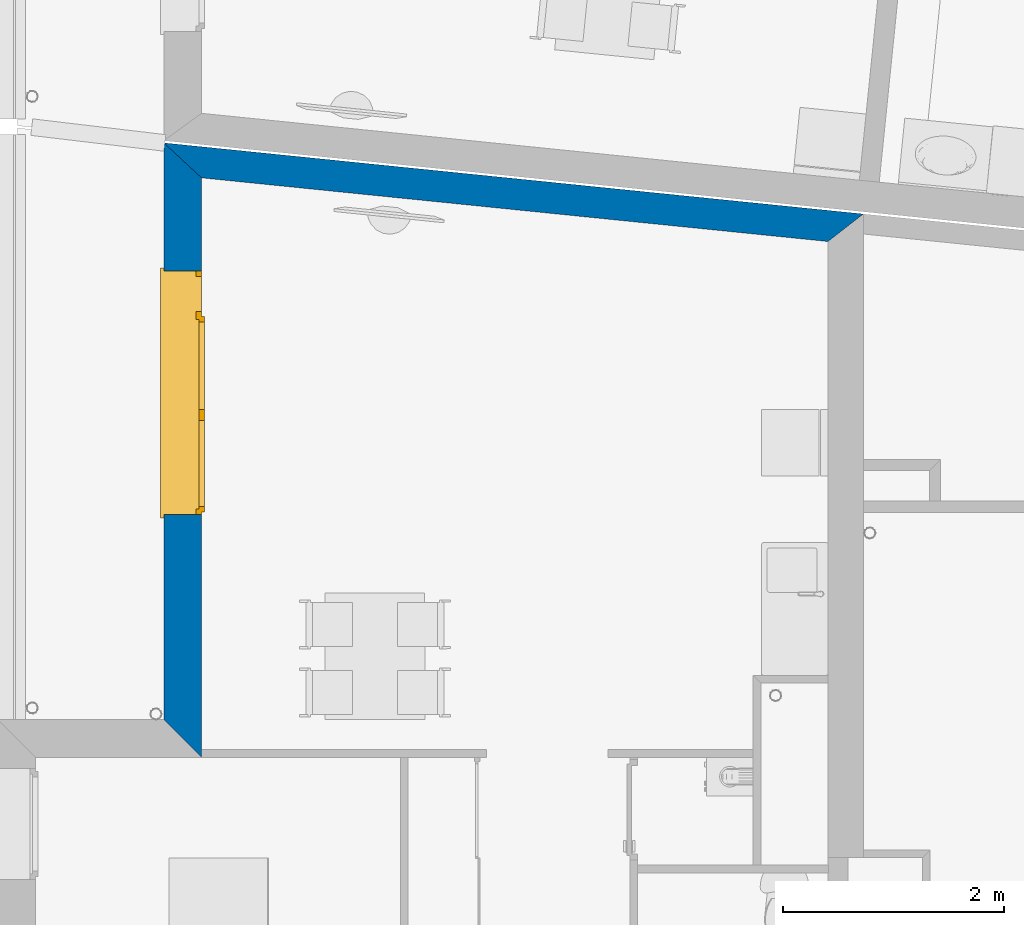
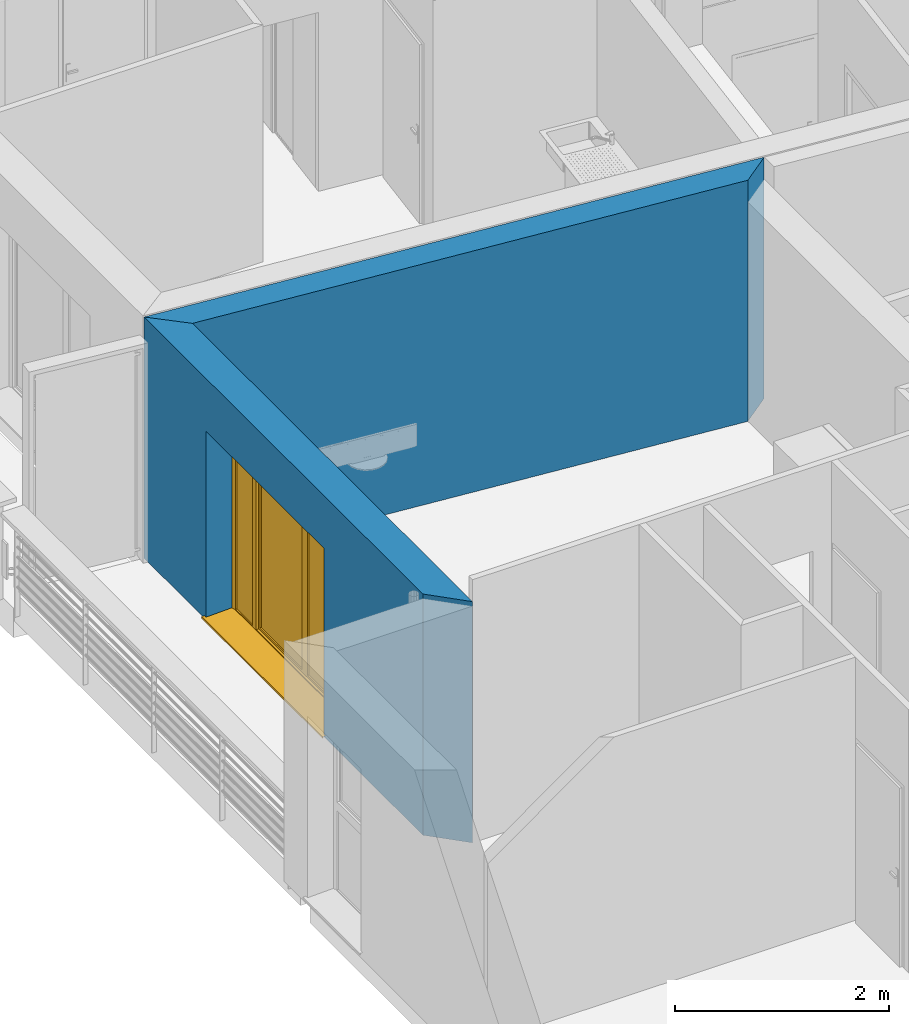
# One storey, part 54 of 171: 2 walls, 1 window, 1 opening.
"""IFC2X3 building model written with IfcOpenShell, lengths in millimetres."""

from ifc_helpers import new_model, entity, si_unit, converted_unit, derived_unit, money_unit, direction, frame, origin_with_axes, place, context, subcontext, project, spatial, polyline, outline, extrude, open_shell, faceted_brep, surface_model, source, transform, mapped, material, layer, layer_set, layer_usage, type_object, element, fill, save


model = new_model("IFC2X3")

# Units and contexts
model_context = context("Model", 3, precision=0.01, world=origin_with_axes(), true_north=direction((0.0, 1.0)))
body_context = subcontext(model_context, "Body", "Model", "MODEL_VIEW")
ifc_project = project(units=[si_unit("LENGTHUNIT", "METRE", prefix="MILLI"), si_unit("AREAUNIT", "SQUARE_METRE"), si_unit("VOLUMEUNIT", "CUBIC_METRE"), converted_unit("PLANEANGLEUNIT", "DEGREE", entity("IfcPlaneAngleMeasure", 0.0174532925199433), si_unit("PLANEANGLEUNIT", "RADIAN"), dimensions=[0, 0, 0, 0, 0, 0, 0]), money_unit("USD"), converted_unit("TIMEUNIT", "Year", entity("IfcTimeMeasure", 31557600.0), si_unit("TIMEUNIT", "SECOND"), dimensions=[0, 0, 1, 0, 0, 0, 0]), si_unit("MASSUNIT", "GRAM", prefix="KILO"), si_unit("THERMODYNAMICTEMPERATUREUNIT", "DEGREE_CELSIUS"), si_unit("LUMINOUSINTENSITYUNIT", "LUMEN"), si_unit("ENERGYUNIT", "JOULE", prefix="MEGA"), derived_unit("THERMALCONDUCTANCEUNIT", [(si_unit("POWERUNIT", "WATT"), 1), (si_unit("LENGTHUNIT", "METRE"), -1), (si_unit("THERMODYNAMICTEMPERATUREUNIT", "KELVIN"), -1)]), derived_unit("SPECIFICHEATCAPACITYUNIT", [(si_unit("ENERGYUNIT", "JOULE"), 1), (si_unit("MASSUNIT", "GRAM", prefix="KILO"), -1), (si_unit("THERMODYNAMICTEMPERATUREUNIT", "KELVIN"), -1)]), derived_unit("MASSDENSITYUNIT", [(si_unit("MASSUNIT", "GRAM", prefix="KILO"), 1), (si_unit("VOLUMEUNIT", "CUBIC_METRE"), -1)])], contexts=[model_context])

# Site, building, storey
site_placement = place(None, origin_with_axes())
site = spatial("IfcSite", under=ifc_project, at=site_placement, Name="Site", CompositionType="ELEMENT")
building_placement = place(site_placement, origin_with_axes())
building = spatial("IfcBuilding", under=site, at=building_placement, Name="Bâtiment", CompositionType="ELEMENT")
storey_placement = place(building_placement, frame((0.0, 0.0, 3000.0), z_axis=(0.0, 0.0, 1.0), x_axis=(1.0, 0.0, 0.0)))
storey = spatial("IfcBuildingStorey", under=building, at=storey_placement, Name="rdc", CompositionType="ELEMENT", Elevation=3000.0)

# Wall
ifc_material_1 = material(Name="Parpaing 312445824")
ifc_layer_1 = layer(ifc_material_1, 180.0, ventilated="UNKNOWN")
ifc_material_2 = material(Name="Isolant styromousse 301821074")
ifc_layer_2 = layer(ifc_material_2, 100.0, ventilated="UNKNOWN")
ifc_layer_set_1 = layer_set([ifc_layer_1, ifc_layer_2], Name="isol int 18+10 0018356637")
ifc_layer_usage_1 = layer_usage(ifc_layer_set_1, "AXIS2", "POSITIVE", 0.0)
wall_type_1 = type_object("IfcWallType", Name="isol int 18+10 0018356637 280", PredefinedType="NOTDEFINED")
wall_1_placement = place(storey_placement, frame((2224132.318255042, -621471.4479790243, 0.0), z_axis=(0.0, 0.0, 1.0), x_axis=(-0.994875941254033, 0.1011032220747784, 0.0)))
element("IfcWallStandardCase", 1, at=wall_1_placement, inside=storey, type_object=wall_type_1, material=ifc_layer_usage_1, Name="Mur-145", context=body_context, shape_type="SweptSolid", body=[
    extrude(outline(polyline([(-321.6483257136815, 0.0), (6028.977746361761, 0.0), (5658.771887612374, 280.0000000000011), (-28.45627849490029, 280.0000000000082), (-321.6483257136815, 0.0)])), origin_with_axes(), (0.0, 0.0, 1.0), 2750.0),
])

# Wall, opening, window
ifc_layer_3 = layer(ifc_material_1, 180.0, ventilated="UNKNOWN")
ifc_layer_4 = layer(ifc_material_2, 160.0, ventilated="UNKNOWN")
ifc_layer_set_2 = layer_set([ifc_layer_3, ifc_layer_4], Name="isol int 18+16 0018356637")
ifc_layer_usage_2 = layer_usage(ifc_layer_set_2, "AXIS2", "POSITIVE", 0.0)
wall_type_2 = type_object("IfcWallType", Name="isol int 18+16 0018356637 340", PredefinedType="NOTDEFINED")
wall_2_placement = place(storey_placement, frame((2218134.233344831, -620861.89890305, 0.0), z_axis=(0.0, 0.0, 1.0), x_axis=(0.0, -1.0, 0.0)))
wall_2 = element("IfcWallStandardCase", 2, at=wall_2_placement, inside=storey, type_object=wall_type_2, material=ifc_layer_usage_2, Name="Mur-143", context=body_context, shape_type="SweptSolid", body=[
    extrude(outline(polyline([(0.0, 0.0), (5209.315229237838, 0.0), (5549.315229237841, 340.0000000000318), (315.9942687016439, 340.0000000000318), (0.0, 0.0)])), origin_with_axes(), (0.0, 0.0, 1.0), 2750.0),
])
opening_placement = place(wall_2_placement, frame((2258.514581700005, -1.13686837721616e-10, 0.0), z_axis=(0.0, 0.0, 1.0), x_axis=(1.0, 0.0, 0.0)))
opening = element("IfcOpeningElement", 3, at=opening_placement, cuts=wall_2, Name="Fen-133", context=body_context, shape_type="Brep", body=[
    faceted_brep([(-1100.000000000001, 290.0000000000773, 2150.0), (-1100.000000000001, 341.0000000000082, 2150.0), (-1100.000000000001, 341.0000000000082, 0.0), (-1100.000000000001, 290.0000000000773, 0.0), (-1100.000000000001, 280.0000000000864, 2150.0), (-1100.000000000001, 280.0000000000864, 2400.0), (-1100.000000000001, 530.0000000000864, 2400.0), (-1100.000000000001, 530.0000000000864, 2150.0), (1100.000000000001, 341.0000000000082, 2150.0), (1100.000000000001, 341.0000000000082, 0.0), (1100.000000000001, 290.0000000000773, 0.0), (1100.000000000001, -0.9999999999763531, 0.0), (-1100.000000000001, -0.9999999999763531, 0.0), (-1100.000000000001, -0.9999999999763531, 2150.0), (1100.000000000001, 280.0000000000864, 2150.0), (1100.000000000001, 280.0000000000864, 2400.0), (1100.000000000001, 530.0000000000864, 2400.0), (1100.000000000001, 530.0000000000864, 2150.0), (1100.000000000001, 290.0000000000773, 2150.0), (1100.000000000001, -0.9999999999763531, 2150.0)], [[[0, 1, 2, 3]], [[1, 0, 4, 5, 6, 7]], [[1, 8, 9, 2]], [[10, 11, 12, 3, 2, 9]], [[4, 0, 3, 12, 13]], [[4, 14, 15, 5]], [[6, 5, 15, 16]], [[7, 6, 16, 17]], [[8, 1, 7, 17]], [[8, 18, 10, 9]], [[18, 14, 19, 11, 10]], [[13, 12, 11, 19]], [[14, 4, 13, 19]], [[18, 8, 17, 16, 15, 14]]]),
])
window_style = type_object("IfcWindowStyle", Name="Fenêtre châssis double variable 27", ConstructionType="NOTDEFINED", OperationType="TRIPLE_PANEL_VERTICAL", ParameterTakesPrecedence=False, Sizeable=False)
shared_shape = source(origin_with_axes(), body_context, "Body", "SurfaceModel", [
    surface_model("IfcShellBasedSurfaceModel", [(-1100.0, -51.00000000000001, 40.00000000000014), (1100.0, -51.00000000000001, 40.0), (1100.0, -51.00000000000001, 50.0), (-1100.0, -51.00000000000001, 50.00000000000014), (-1130.0, -369.9999999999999, 28.96551724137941), (1130.0, -369.9999999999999, 28.96551724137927), (1130.0, -339.9999999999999, 30.00324289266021), (1100.0, -339.9999999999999, 30.00324289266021), (-1100.0, -339.9999999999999, 30.00324289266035), (-1130.0, -339.9999999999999, 30.00324289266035), (-1130.0, -369.9999999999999, 8.965517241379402), (1130.0, -369.9999999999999, 8.965517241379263), (-1130.0, -359.9999999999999, 18.9655172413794), (1130.0, -359.9999999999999, 18.96551724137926)], [open_shell([[[0, 1, 2, 3]], [[4, 5, 6, 7, 1, 0, 8, 9]], [[10, 11, 5, 4]], [[12, 13, 11, 10]]])]),
    faceted_brep([(1100.0, -60.00000000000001, 2400.0), (1100.0, 190.0, 2400.0), (1097.0, 190.0, 2400.0), (1097.0, -60.00000000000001, 2400.0), (1100.0, -60.00000000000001, 2150.0), (1100.0, 190.0, 2150.0), (1097.0, 190.0, 2150.0), (1097.0, -60.00000000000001, 2150.0)], [[[0, 1, 2, 3]], [[0, 4, 5, 1]], [[1, 5, 6, 2]], [[3, 2, 6, 7]], [[4, 0, 3, 7]], [[5, 4, 7, 6]]]),
    faceted_brep([(-1097.0, -59.99999999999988, 2400.0), (-1097.0, 190.0000000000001, 2400.0), (-1100.0, 190.0000000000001, 2400.0), (-1100.0, -59.99999999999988, 2400.0), (-1097.0, -59.99999999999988, 2150.0), (-1097.0, 190.0000000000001, 2150.0), (-1100.0, 190.0000000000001, 2150.0), (-1100.0, -59.99999999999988, 2150.0)], [[[0, 1, 2, 3]], [[0, 4, 5, 1]], [[1, 5, 6, 2]], [[3, 2, 6, 7]], [[4, 0, 3, 7]], [[5, 4, 7, 6]]]),
    faceted_brep([(1097.0, -60.0, 2150.0), (1097.0, -60.0, 2400.0), (-1097.0, -59.99999999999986, 2400.0), (-1097.0, -59.99999999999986, 2150.0), (1097.0, -56.99999999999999, 2150.0), (1097.0, -56.99999999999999, 2397.0), (1097.0, 187.0, 2397.0), (1097.0, 187.0, 2153.0), (1097.0, -37.99999999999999, 2153.0), (1097.0, -37.99999999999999, 2150.0), (1097.0, 190.0, 2150.0), (1097.0, 190.0, 2400.0), (-1097.0, 190.0000000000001, 2400.0), (-1097.0, 190.0000000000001, 2150.0), (-1097.0, -37.99999999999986, 2150.0), (-1097.0, -37.99999999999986, 2153.0), (-1097.0, 187.0000000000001, 2153.0), (-1097.0, 187.0000000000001, 2397.0), (-1097.0, -56.99999999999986, 2397.0), (-1097.0, -56.99999999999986, 2150.0)], [[[0, 1, 2, 3]], [[0, 4, 5, 6, 7, 8, 9, 10, 11, 1]], [[1, 11, 12, 2]], [[3, 2, 12, 13, 14, 15, 16, 17, 18, 19]], [[4, 0, 3, 19]], [[5, 4, 19, 18]], [[6, 5, 18, 17]], [[7, 6, 17, 16]], [[8, 7, 16, 15]], [[9, 8, 15, 14]], [[10, 9, 14, 13]], [[11, 10, 13, 12]]]),
    faceted_brep([(1094.0, -40.37442957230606, 2256.419644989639), (1094.0, -35.54711042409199, 2238.403844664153), (1094.0, -27.66471820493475, 2221.5), (1094.0, -16.9667554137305, 2206.22172576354), (1094.0, -3.778274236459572, 2193.033244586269), (1094.0, 11.50000000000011, 2182.335281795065), (1094.0, 28.40384466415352, 2174.452889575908), (1094.0, 46.4196449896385, 2169.625570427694), (1094.0, 65.00000000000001, 2168.0), (1094.0, 83.58035501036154, 2169.625570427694), (1094.0, 101.5961553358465, 2174.452889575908), (1094.0, 118.4999999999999, 2182.335281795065), (1094.0, 133.7782742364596, 2193.033244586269), (1094.0, 146.9667554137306, 2206.22172576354), (1094.0, 157.6647182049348, 2221.5), (1094.0, 165.5471104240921, 2238.403844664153), (1094.0, 170.3744295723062, 2256.419644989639), (1094.0, 171.9999999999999, 2275.0), (1094.0, 170.3744295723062, 2293.580355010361), (1094.0, 165.5471104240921, 2311.596155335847), (1094.0, 157.6647182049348, 2328.5), (1094.0, 146.9667554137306, 2343.77827423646), (1094.0, 133.7782742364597, 2356.96675541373), (1094.0, 118.5, 2367.664718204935), (1094.0, 101.5961553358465, 2375.547110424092), (1094.0, 83.58035501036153, 2380.374429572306), (1094.0, 64.99999999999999, 2382.0), (1094.0, 46.41964498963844, 2380.374429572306), (1094.0, 28.40384466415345, 2375.547110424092), (1094.0, 11.5, 2367.664718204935), (1094.0, -3.778274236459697, 2356.96675541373), (1094.0, -16.96675541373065, 2343.77827423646), (1094.0, -27.66471820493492, 2328.5), (1094.0, -35.54711042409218, 2311.596155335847), (1094.0, -40.37442957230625, 2293.580355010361), (1094.0, -41.99999999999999, 2275.0), (-1094.0, -40.37442957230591, 2256.419644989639), (-1094.0, -35.54711042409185, 2238.403844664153), (-1094.0, -27.66471820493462, 2221.5), (-1094.0, -16.96675541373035, 2206.22172576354), (-1094.0, -3.778274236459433, 2193.033244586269), (-1094.0, 11.50000000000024, 2182.335281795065), (-1094.0, 28.40384466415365, 2174.452889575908), (-1094.0, 46.41964498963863, 2169.625570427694), (-1094.0, 65.00000000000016, 2168.0), (-1094.0, 83.58035501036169, 2169.625570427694), (-1094.0, 101.5961553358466, 2174.452889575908), (-1094.0, 118.5000000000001, 2182.335281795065), (-1094.0, 133.7782742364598, 2193.033244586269), (-1094.0, 146.9667554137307, 2206.22172576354), (-1094.0, 157.664718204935, 2221.5), (-1094.0, 165.5471104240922, 2238.403844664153), (-1094.0, 170.3744295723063, 2256.419644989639), (-1094.0, 172.0, 2275.0), (-1094.0, 170.3744295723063, 2293.580355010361), (-1094.0, 165.5471104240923, 2311.596155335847), (-1094.0, 157.664718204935, 2328.5), (-1094.0, 146.9667554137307, 2343.77827423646), (-1094.0, 133.7782742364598, 2356.96675541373), (-1094.0, 118.5000000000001, 2367.664718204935), (-1094.0, 101.5961553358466, 2375.547110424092), (-1094.0, 83.58035501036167, 2380.374429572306), (-1094.0, 65.00000000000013, 2382.0), (-1094.0, 46.41964498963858, 2380.374429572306), (-1094.0, 28.40384466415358, 2375.547110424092), (-1094.0, 11.50000000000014, 2367.664718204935), (-1094.0, -3.778274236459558, 2356.96675541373), (-1094.0, -16.96675541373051, 2343.77827423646), (-1094.0, -27.66471820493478, 2328.5), (-1094.0, -35.54711042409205, 2311.596155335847), (-1094.0, -40.37442957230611, 2293.580355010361), (-1094.0, -41.99999999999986, 2275.0)], [[[0, 1, 2, 3, 4, 5, 6, 7, 8, 9, 10, 11, 12, 13, 14, 15, 16, 17, 18, 19, 20, 21, 22, 23, 24, 25, 26, 27, 28, 29, 30, 31, 32, 33, 34, 35]], [[1, 0, 36, 37]], [[2, 1, 37, 38]], [[3, 2, 38, 39]], [[4, 3, 39, 40]], [[5, 4, 40, 41]], [[6, 5, 41, 42]], [[7, 6, 42, 43]], [[8, 7, 43, 44]], [[9, 8, 44, 45]], [[10, 9, 45, 46]], [[11, 10, 46, 47]], [[12, 11, 47, 48]], [[13, 12, 48, 49]], [[14, 13, 49, 50]], [[15, 14, 50, 51]], [[16, 15, 51, 52]], [[17, 16, 52, 53]], [[18, 17, 53, 54]], [[19, 18, 54, 55]], [[20, 19, 55, 56]], [[21, 20, 56, 57]], [[22, 21, 57, 58]], [[23, 22, 58, 59]], [[24, 23, 59, 60]], [[25, 24, 60, 61]], [[26, 25, 61, 62]], [[27, 26, 62, 63]], [[28, 27, 63, 64]], [[29, 28, 64, 65]], [[30, 29, 65, 66]], [[31, 30, 66, 67]], [[32, 31, 67, 68]], [[33, 32, 68, 69]], [[34, 33, 69, 70]], [[35, 34, 70, 71]], [[0, 35, 71, 36]], [[36, 71, 70, 69, 68, 67, 66, 65, 64, 63, 62, 61, 60, 59, 58, 57, 56, 55, 54, 53, 52, 51, 50, 49, 48, 47, 46, 45, 44, 43, 42, 41, 40, 39, 38, 37]]]),
    faceted_brep([(-1100.0, -34.99999999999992, 30.0), (-1100.0, -59.99999999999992, 30.0), (-1100.0, -59.99999999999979, 2150.0), (-1100.0, -34.99999999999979, 2150.0), (-1075.0, -34.99999999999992, 30.0), (-1075.0, -37.99999999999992, 30.0), (-1097.0, -37.99999999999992, 30.0), (-1097.0, -56.99999999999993, 30.0), (-1075.0, -56.99999999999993, 30.0), (-1075.0, -59.99999999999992, 30.0), (-1075.0, -59.99999999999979, 2150.0), (-1075.0, -56.99999999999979, 2150.0), (-1097.0, -56.99999999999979, 2150.0), (-1097.0, -37.99999999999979, 2150.0), (-1075.0, -37.99999999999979, 2150.0), (-1075.0, -34.99999999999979, 2150.0)], [[[0, 1, 2, 3]], [[0, 4, 5, 6, 7, 8, 9, 1]], [[1, 9, 10, 2]], [[3, 2, 10, 11, 12, 13, 14, 15]], [[4, 0, 3, 15]], [[5, 4, 15, 14]], [[6, 5, 14, 13]], [[7, 6, 13, 12]], [[8, 7, 12, 11]], [[9, 8, 11, 10]]]),
    faceted_brep([(1100.0, -34.99999999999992, 30.0), (1100.0, -34.99999999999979, 2150.0), (1100.0, -59.99999999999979, 2150.0), (1100.0, -59.99999999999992, 30.0), (1075.0, -34.99999999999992, 30.0), (1075.0, -34.99999999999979, 2150.0), (1075.0, -37.99999999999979, 2150.0), (1097.0, -37.99999999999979, 2150.0), (1097.0, -56.99999999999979, 2150.0), (1075.0, -56.99999999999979, 2150.0), (1075.0, -59.99999999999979, 2150.0), (1075.0, -59.99999999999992, 30.0), (1075.0, -56.99999999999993, 30.0), (1097.0, -56.99999999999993, 30.0), (1097.0, -37.99999999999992, 30.0), (1075.0, -37.99999999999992, 30.0)], [[[0, 1, 2, 3]], [[4, 5, 1, 0]], [[1, 5, 6, 7, 8, 9, 10, 2]], [[3, 2, 10, 11]], [[0, 3, 11, 12, 13, 14, 15, 4]], [[15, 6, 5, 4]], [[14, 7, 6, 15]], [[13, 8, 7, 14]], [[12, 9, 8, 13]], [[11, 10, 9, 12]]]),
    faceted_brep([(-1097.0, -46.66666666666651, 2275.0), (1097.0, -46.66666666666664, 2275.0), (1097.0, -46.66666666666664, 2266.666666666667), (-1097.0, -46.66666666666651, 2266.666666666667), (-1097.0, -51.66666666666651, 2275.0), (1097.0, -51.66666666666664, 2275.0), (1097.0, -51.66666666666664, 2266.666666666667), (1097.0, -49.99999999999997, 2250.0), (1097.0, -44.99999999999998, 2250.0), (-1097.0, -44.99999999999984, 2250.0), (-1097.0, -49.99999999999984, 2250.0), (-1097.0, -51.66666666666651, 2266.666666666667)], [[[0, 1, 2, 3]], [[1, 0, 4, 5]], [[1, 5, 6, 7, 8, 2]], [[2, 8, 9, 3]], [[4, 0, 3, 9, 10, 11]], [[6, 5, 4, 11]], [[7, 6, 11, 10]], [[8, 7, 10, 9]]]),
    faceted_brep([(1097.0, -44.99999999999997, 2250.0), (1097.0, -46.66666666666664, 2233.333333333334), (-1097.0, -46.66666666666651, 2233.333333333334), (-1097.0, -44.99999999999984, 2250.0), (1097.0, -49.99999999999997, 2250.0), (1097.0, -51.66666666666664, 2233.333333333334), (1097.0, -51.66666666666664, 2216.666666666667), (1097.0, -49.99999999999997, 2200.0), (1097.0, -44.99999999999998, 2200.0), (1097.0, -46.66666666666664, 2216.666666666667), (-1097.0, -46.66666666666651, 2216.666666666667), (-1097.0, -44.99999999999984, 2200.0), (-1097.0, -49.99999999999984, 2200.0), (-1097.0, -51.66666666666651, 2216.666666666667), (-1097.0, -51.66666666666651, 2233.333333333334), (-1097.0, -49.99999999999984, 2250.0)], [[[0, 1, 2, 3]], [[0, 4, 5, 6, 7, 8, 9, 1]], [[1, 9, 10, 2]], [[3, 2, 10, 11, 12, 13, 14, 15]], [[4, 0, 3, 15]], [[5, 4, 15, 14]], [[6, 5, 14, 13]], [[7, 6, 13, 12]], [[8, 7, 12, 11]], [[9, 8, 11, 10]]]),
    faceted_brep([(1097.0, -44.99999999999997, 2200.0), (1097.0, -46.66666666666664, 2183.333333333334), (-1097.0, -46.66666666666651, 2183.333333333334), (-1097.0, -44.99999999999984, 2200.0), (1097.0, -49.99999999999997, 2200.0), (1097.0, -51.66666666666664, 2183.333333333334), (1097.0, -51.66666666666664, 2166.666666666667), (1097.0, -49.99999999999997, 2150.000000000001), (1097.0, -44.99999999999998, 2150.000000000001), (1097.0, -46.66666666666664, 2166.666666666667), (-1097.0, -46.66666666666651, 2166.666666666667), (-1097.0, -44.99999999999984, 2150.000000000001), (-1097.0, -49.99999999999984, 2150.000000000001), (-1097.0, -51.66666666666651, 2166.666666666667), (-1097.0, -51.66666666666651, 2183.333333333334), (-1097.0, -49.99999999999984, 2200.0)], [[[0, 1, 2, 3]], [[0, 4, 5, 6, 7, 8, 9, 1]], [[1, 9, 10, 2]], [[3, 2, 10, 11, 12, 13, 14, 15]], [[4, 0, 3, 15]], [[5, 4, 15, 14]], [[6, 5, 14, 13]], [[7, 6, 13, 12]], [[8, 7, 12, 11]], [[9, 8, 11, 10]]]),
    faceted_brep([(1075.0, 0.0, 2100.0), (1075.0, -25.00000000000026, 2100.0), (1050.0, -25.00000000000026, 2100.0), (1050.0, -50.00000000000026, 2100.0), (1100.0, -50.00000000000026, 2100.0), (1100.0, 0.0, 2100.0), (1075.0, 0.0, 50.00000000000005), (1075.0, -25.00000000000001, 50.00000000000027), (1050.0, -25.00000000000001, 50.00000000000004), (1050.0, -50.00000000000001, 50.00000000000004), (1100.0, -50.00000000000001, 50.00000000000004), (1100.0, 0.0, 50.00000000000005)], [[[0, 1, 2, 3, 4, 5]], [[1, 0, 6, 7]], [[8, 2, 1, 7]], [[2, 8, 9, 3]], [[4, 3, 9, 10]], [[5, 4, 10, 11]], [[6, 0, 5, 11]], [[7, 6, 11, 10, 9, 8]]]),
    faceted_brep([(-665.0, -25.00000000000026, 2100.0), (-690.0000000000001, -25.00000000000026, 2100.0), (-690.0000000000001, 0.0, 2100.0), (-735.0000000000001, 0.0, 2100.0), (-735.0000000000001, -50.00000000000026, 2100.0), (-665.0, -50.00000000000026, 2100.0), (-665.0, -25.00000000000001, 50.00000000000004), (-690.0000000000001, -25.00000000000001, 50.00000000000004), (-690.0000000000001, 0.0, 50.00000000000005), (-735.0000000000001, 0.0, 50.00000000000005), (-735.0000000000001, -50.00000000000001, 50.00000000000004), (-665.0, -50.00000000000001, 50.00000000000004)], [[[0, 1, 2, 3, 4, 5]], [[1, 0, 6, 7]], [[8, 2, 1, 7]], [[2, 8, 9, 3]], [[9, 10, 4, 3]], [[10, 11, 5, 4]], [[6, 0, 5, 11]], [[7, 6, 11, 10, 9, 8]]]),
    faceted_brep([(-665.0, -25.00000000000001, 50.00000000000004), (-690.0000000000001, -25.00000000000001, 50.00000000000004), (-690.0000000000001, 0.0, 50.00000000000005), (-735.0000000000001, 0.0, 50.00000000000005), (-735.0000000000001, -50.00000000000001, 50.00000000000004), (-665.0, -50.00000000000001, 50.00000000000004), (1050.0, -25.00000000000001, 50.00000000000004), (1075.0, -25.00000000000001, 50.00000000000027), (1075.0, -25.0, 24.99999999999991), (-690.0000000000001, -25.0, 24.99999999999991), (-690.0000000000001, 0.0, 24.99999999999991), (1075.0, 0.0, 24.99999999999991), (1075.0, 0.0, 50.00000000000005), (1100.0, 0.0, 50.00000000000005), (1100.0, 0.0, 0.0), (-1100.0, 0.0, 0.0), (-1100.0, 0.0, 50.00000000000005), (-1050.0, 0.0, 50.00000000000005), (-1050.0, -50.00000000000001, 50.00000000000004), (1100.0, -50.00000000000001, 50.00000000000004), (1050.0, -50.00000000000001, 50.00000000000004), (-1100.0, -50.00000000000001, 50.00000000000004), (-1100.0, -50.0, 0.0), (1100.0, -50.0, 0.0)], [[[0, 1, 2, 3, 4, 5]], [[1, 0, 6, 7, 8, 9]], [[10, 2, 1, 9]], [[11, 12, 13, 14, 15, 16, 17, 3, 2, 10]], [[17, 18, 4, 3]], [[19, 20, 5, 4, 18, 21, 22, 23]], [[6, 0, 5, 20]], [[7, 6, 20, 19, 13, 12]], [[7, 12, 11, 8]], [[11, 10, 9, 8]], [[13, 19, 23, 14]], [[14, 23, 22, 15]], [[15, 22, 21, 16]], [[16, 21, 18, 17]]]),
    faceted_brep([(1075.0, 0.0, 2100.0), (1075.0, 0.0, 2125.0), (-690.0000000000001, 0.0, 2125.0), (-690.0000000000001, 0.0, 2100.0), (-735.0000000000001, 0.0, 2100.0), (-1050.0, 0.0, 2100.0), (-1100.0, 0.0, 2100.0), (-1100.0, 0.0, 2150.0), (1100.0, 0.0, 2150.0), (1100.0, 0.0, 2100.0), (1075.0, -25.00000000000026, 2100.0), (1075.0, -25.00000000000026, 2125.0), (-690.0000000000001, -25.00000000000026, 2125.0), (-690.0000000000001, -25.00000000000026, 2100.0), (-665.0, -25.00000000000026, 2100.0), (-665.0, -50.00000000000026, 2100.0), (-735.0000000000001, -50.00000000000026, 2100.0), (-1050.0, -50.00000000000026, 2100.0), (-1100.0, -50.00000000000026, 2100.0), (-1100.0, -50.00000000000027, 2150.0), (1100.0, -50.00000000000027, 2150.0), (1100.0, -50.00000000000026, 2100.0), (1050.0, -50.00000000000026, 2100.0), (1050.0, -25.00000000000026, 2100.0)], [[[0, 1, 2, 3, 4, 5, 6, 7, 8, 9]], [[1, 0, 10, 11]], [[2, 1, 11, 12]], [[3, 2, 12, 13]], [[13, 14, 15, 16, 4, 3]], [[4, 16, 17, 5]], [[5, 17, 18, 6]], [[6, 18, 19, 7]], [[7, 19, 20, 8]], [[8, 20, 21, 9]], [[10, 0, 9, 21, 22, 23]], [[14, 13, 12, 11, 10, 23]], [[14, 23, 22, 15]], [[16, 15, 22, 21, 20, 19, 18, 17]]]),
    faceted_brep([(-1050.0, -50.00000000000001, 50.0), (-1100.0, -50.00000000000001, 50.0), (-1100.0, 0.0, 50.00000000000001), (-1050.0, 0.0, 50.00000000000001), (-1050.0, -50.00000000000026, 2100.0), (-1100.0, -50.00000000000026, 2100.0), (-1100.0, 0.0, 2100.0), (-1050.0, 0.0, 2100.0)], [[[0, 1, 2, 3]], [[0, 4, 5, 1]], [[1, 5, 6, 2]], [[3, 2, 6, 7]], [[4, 0, 3, 7]], [[5, 4, 7, 6]]]),
    faceted_brep([(1025.0, -25.00000000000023, 2075.0), (1075.0, -25.00000000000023, 2075.0), (1075.0, 24.99999999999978, 2075.0), (1025.0, 24.99999999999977, 2075.0), (1025.0, -24.99999999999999, 75.00000000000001), (1075.0, -24.99999999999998, 75.00000000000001), (1075.0, 25.00000000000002, 75.00000000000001), (1025.0, 25.00000000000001, 75.00000000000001)], [[[0, 1, 2, 3]], [[0, 4, 5, 1]], [[1, 5, 6, 2]], [[3, 2, 6, 7]], [[4, 0, 3, 7]], [[5, 4, 7, 6]]]),
    faceted_brep([(249.9999999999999, -25.00000000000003, 75.00000000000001), (199.9999999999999, -25.00000000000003, 75.00000000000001), (199.9999999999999, 24.99999999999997, 75.00000000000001), (249.9999999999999, 24.99999999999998, 75.00000000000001), (249.9999999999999, -25.00000000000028, 2075.0), (199.9999999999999, -25.00000000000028, 2075.0), (199.9999999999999, 24.99999999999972, 2075.0), (249.9999999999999, 24.99999999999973, 2075.0)], [[[0, 1, 2, 3]], [[0, 4, 5, 1]], [[1, 5, 6, 2]], [[3, 2, 6, 7]], [[4, 0, 3, 7]], [[5, 4, 7, 6]]]),
    faceted_brep([(199.9999999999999, -25.00000000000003, 25.0), (199.9999999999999, -25.00000000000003, 75.00000000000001), (199.9999999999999, 24.99999999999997, 75.00000000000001), (199.9999999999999, 24.99999999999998, 25.00000000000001), (1075.0, -24.99999999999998, 25.0), (1075.0, -24.99999999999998, 75.00000000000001), (1025.0, -24.99999999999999, 75.00000000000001), (249.9999999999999, -25.00000000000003, 75.00000000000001), (249.9999999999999, 24.99999999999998, 75.00000000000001), (1025.0, 25.00000000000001, 75.00000000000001), (1075.0, 25.00000000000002, 75.00000000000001), (1075.0, 25.00000000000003, 25.00000000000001)], [[[0, 1, 2, 3]], [[0, 4, 5, 6, 7, 1]], [[1, 7, 8, 2]], [[3, 2, 8, 9, 10, 11]], [[4, 0, 3, 11]], [[5, 4, 11, 10]], [[6, 5, 10, 9]], [[7, 6, 9, 8]]]),
    faceted_brep([(1075.0, -25.00000000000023, 2125.0), (1075.0, -25.00000000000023, 2075.0), (1075.0, 24.99999999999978, 2075.0), (1075.0, 24.99999999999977, 2125.0), (199.9999999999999, -25.00000000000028, 2125.0), (199.9999999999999, -25.00000000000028, 2075.0), (249.9999999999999, -25.00000000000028, 2075.0), (1025.0, -25.00000000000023, 2075.0), (1025.0, 24.99999999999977, 2075.0), (249.9999999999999, 24.99999999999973, 2075.0), (199.9999999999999, 24.99999999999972, 2075.0), (199.9999999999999, 24.99999999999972, 2125.0)], [[[0, 1, 2, 3]], [[0, 4, 5, 6, 7, 1]], [[1, 7, 8, 2]], [[3, 2, 8, 9, 10, 11]], [[4, 0, 3, 11]], [[5, 4, 11, 10]], [[6, 5, 10, 9]], [[7, 6, 9, 8]]]),
    surface_model("IfcShellBasedSurfaceModel", [(1025.0, -10.00000000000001, 75.00000000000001), (1025.0, -10.00000000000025, 2075.0), (249.9999999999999, -10.00000000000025, 2075.0), (249.9999999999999, -10.00000000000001, 75.00000000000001)], [open_shell([[[0, 1, 2, 3]]])]),
    surface_model("IfcShellBasedSurfaceModel", [(1025.0, 9.999999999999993, 75.00000000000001), (249.9999999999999, 9.999999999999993, 75.00000000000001), (249.9999999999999, 9.99999999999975, 2075.0), (1025.0, 9.99999999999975, 2075.0)], [open_shell([[[0, 1, 2, 3]]])]),
    faceted_brep([(150.0, -25.00000000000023, 2075.0), (199.9999999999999, -25.00000000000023, 2075.0), (199.9999999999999, 24.99999999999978, 2075.0), (150.0, 24.99999999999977, 2075.0), (150.0, -24.99999999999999, 75.00000000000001), (199.9999999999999, -24.99999999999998, 75.00000000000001), (199.9999999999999, 25.00000000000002, 75.00000000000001), (150.0, 25.00000000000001, 75.00000000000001)], [[[0, 1, 2, 3]], [[0, 4, 5, 1]], [[1, 5, 6, 2]], [[3, 2, 6, 7]], [[4, 0, 3, 7]], [[5, 4, 7, 6]]]),
    faceted_brep([(-640.0000000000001, -25.00000000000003, 75.00000000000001), (-690.0000000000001, -25.00000000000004, 75.00000000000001), (-690.0000000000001, 24.99999999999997, 75.00000000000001), (-640.0000000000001, 24.99999999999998, 75.00000000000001), (-640.0000000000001, -25.00000000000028, 2075.0), (-690.0000000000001, -25.00000000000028, 2075.0), (-690.0000000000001, 24.99999999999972, 2075.0), (-640.0000000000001, 24.99999999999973, 2075.0)], [[[0, 1, 2, 3]], [[0, 4, 5, 1]], [[1, 5, 6, 2]], [[3, 2, 6, 7]], [[4, 0, 3, 7]], [[5, 4, 7, 6]]]),
    faceted_brep([(-690.0000000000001, -25.00000000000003, 25.0), (-690.0000000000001, -25.00000000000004, 75.00000000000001), (-690.0000000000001, 24.99999999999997, 75.00000000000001), (-690.0000000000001, 24.99999999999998, 25.00000000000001), (199.9999999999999, -24.99999999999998, 25.0), (199.9999999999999, -24.99999999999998, 75.00000000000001), (150.0, -24.99999999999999, 75.00000000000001), (-640.0000000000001, -25.00000000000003, 75.00000000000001), (-640.0000000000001, 24.99999999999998, 75.00000000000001), (150.0, 25.00000000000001, 75.00000000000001), (199.9999999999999, 25.00000000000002, 75.00000000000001), (199.9999999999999, 25.00000000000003, 25.00000000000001)], [[[0, 1, 2, 3]], [[0, 4, 5, 6, 7, 1]], [[1, 7, 8, 2]], [[3, 2, 8, 9, 10, 11]], [[4, 0, 3, 11]], [[5, 4, 11, 10]], [[6, 5, 10, 9]], [[7, 6, 9, 8]]]),
    faceted_brep([(199.9999999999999, -25.00000000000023, 2125.0), (199.9999999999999, -25.00000000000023, 2075.0), (199.9999999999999, 24.99999999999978, 2075.0), (199.9999999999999, 24.99999999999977, 2125.0), (-690.0000000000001, -25.00000000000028, 2125.0), (-690.0000000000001, -25.00000000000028, 2075.0), (-640.0000000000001, -25.00000000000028, 2075.0), (150.0, -25.00000000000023, 2075.0), (150.0, 24.99999999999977, 2075.0), (-640.0000000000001, 24.99999999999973, 2075.0), (-690.0000000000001, 24.99999999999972, 2075.0), (-690.0000000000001, 24.99999999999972, 2125.0)], [[[0, 1, 2, 3]], [[0, 4, 5, 6, 7, 1]], [[1, 7, 8, 2]], [[3, 2, 8, 9, 10, 11]], [[4, 0, 3, 11]], [[5, 4, 11, 10]], [[6, 5, 10, 9]], [[7, 6, 9, 8]]]),
    surface_model("IfcShellBasedSurfaceModel", [(150.0, -10.00000000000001, 75.00000000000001), (150.0, -10.00000000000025, 2075.0), (-640.0000000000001, -10.00000000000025, 2075.0), (-640.0000000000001, -10.00000000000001, 75.00000000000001)], [open_shell([[[0, 1, 2, 3]]])]),
    surface_model("IfcShellBasedSurfaceModel", [(150.0, 9.999999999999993, 75.00000000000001), (-640.0000000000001, 9.999999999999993, 75.00000000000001), (-640.0000000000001, 9.99999999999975, 2075.0), (150.0, 9.99999999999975, 2075.0)], [open_shell([[[0, 1, 2, 3]]])]),
    surface_model("IfcShellBasedSurfaceModel", [(-735.0000000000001, -35.0, 49.99999999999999), (-735.0000000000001, -35.00000000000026, 2100.0), (-1050.0, -35.00000000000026, 2100.0), (-1050.0, -35.0, 49.99999999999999)], [open_shell([[[0, 1, 2, 3]]])]),
    surface_model("IfcShellBasedSurfaceModel", [(-735.0000000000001, -15.0, 49.99999999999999), (-1050.0, -15.0, 49.99999999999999), (-1050.0, -15.00000000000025, 2100.0), (-735.0000000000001, -15.00000000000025, 2100.0)], [open_shell([[[0, 1, 2, 3]]])]),
])
window_placement = place(opening_placement, frame((-1099.999999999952, -1.13686837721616e-10, 0.0), z_axis=(0.0, 0.0, 1.0), x_axis=(1.0, 0.0, 0.0)))
window = element("IfcWindow", 4, at=window_placement, inside=storey, type_object=window_style, Name="Fen-133", OverallHeight=2150.0, OverallWidth=2200.0, context=body_context, shape_type="MappedRepresentation", body=[
    mapped(shared_shape, transform((1100.000000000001, 340.0000000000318, 0.0))),
])
fill(opening, window)

save(model, "model.ifc")
